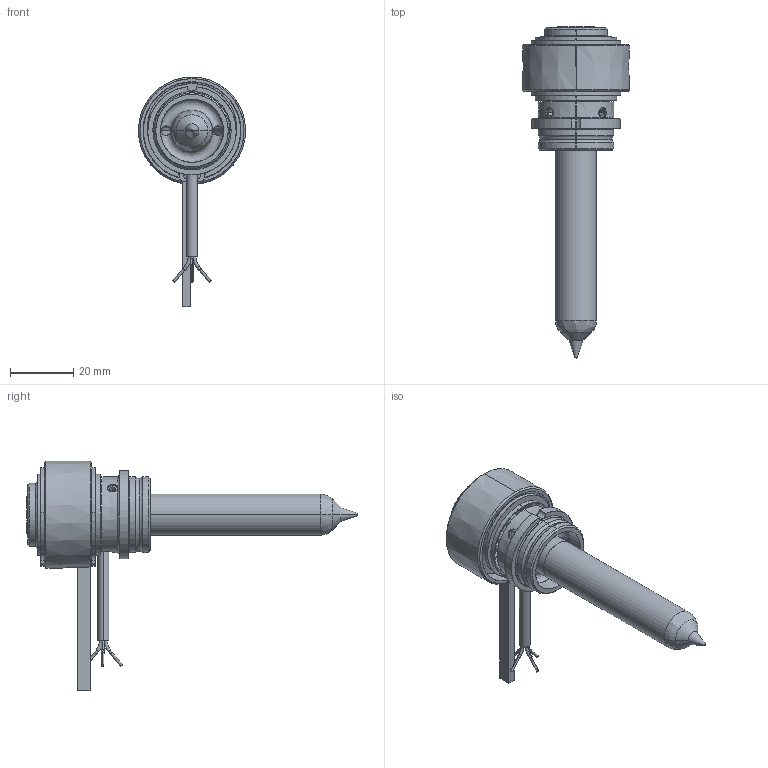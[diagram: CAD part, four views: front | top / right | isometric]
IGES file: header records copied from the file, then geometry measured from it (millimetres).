
Start section: SolidWorks IGES file using analytic representation for surfaces
Global section: file name: C:\Documents and Settings\ws-20\Desktop\TEM\UGGS2540-M-0 [Øf-0.68].IGS; native system: SolidWorks 2012; preprocessor: SolidWorks 2012; author: ws-20; date: 120516.093315; units: millimetre
Bounding box: 34 x 105.3 x 72.9 mm (x, y, z)
Surface area: 15978.3 mm2 (no closed solid volume)
Topology: 0 solids, 0 shells, 204 faces, 2879 edges, 2873 vertices
Faces by surface type: revolution 121, bspline 83
